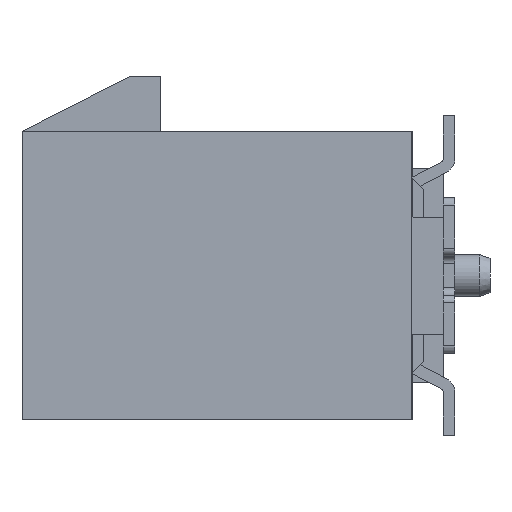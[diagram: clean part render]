
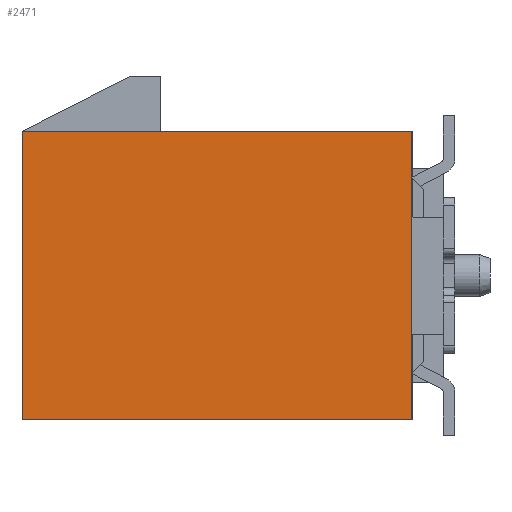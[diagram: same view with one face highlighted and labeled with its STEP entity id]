
A CAD part, left-side view. The second image highlights one B-rep face of the part: STEP entity #2471.
In plain terms, the highlighted planar face has unit normal (-1, 0, 0).
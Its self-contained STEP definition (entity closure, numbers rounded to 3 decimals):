
#333 = CARTESIAN_POINT ( 'NONE',  ( -14.65, 11.1, -3.7 ) ) ;
#413 = DIRECTION ( 'NONE',  ( 0., 0., 1. ) ) ;
#570 = VECTOR ( 'NONE', #9388, 1000. ) ;
#589 = CARTESIAN_POINT ( 'NONE',  ( -14.65, 48.272, -3.7 ) ) ;
#1003 = EDGE_CURVE ( 'NONE', #1528, #8660, #4080, .T. ) ;
#1201 = EDGE_CURVE ( 'NONE', #8660, #2805, #2456, .T. ) ;
#1528 = VERTEX_POINT ( 'NONE', #333 ) ;
#1809 = CARTESIAN_POINT ( 'NONE',  ( -14.65, 1.1, -3.7 ) ) ;
#2142 = ORIENTED_EDGE ( 'NONE', *, *, #1003, .F. ) ;
#2456 = LINE ( 'NONE', #6077, #14912 ) ;
#2471 = ADVANCED_FACE ( 'NONE', ( #8637 ), #10038, .F. ) ;
#2805 = VERTEX_POINT ( 'NONE', #9707 ) ;
#2814 = EDGE_CURVE ( 'NONE', #12391, #2805, #3820, .T. ) ;
#3820 = LINE ( 'NONE', #1809, #7785 ) ;
#4080 = LINE ( 'NONE', #7717, #15147 ) ;
#4244 = EDGE_LOOP ( 'NONE', ( #12077, #2142, #15088, #14069 ) ) ;
#5382 = DIRECTION ( 'NONE',  ( 0., 0., -1. ) ) ;
#5590 = LINE ( 'NONE', #8304, #570 ) ;
#6077 = CARTESIAN_POINT ( 'NONE',  ( -14.65, 48.272, 3.7 ) ) ;
#6305 = CARTESIAN_POINT ( 'NONE',  ( -14.65, 11.1, 3.7 ) ) ;
#6336 = DIRECTION ( 'NONE',  ( 0., 0., 1. ) ) ;
#7096 = EDGE_CURVE ( 'NONE', #1528, #12391, #5590, .T. ) ;
#7717 = CARTESIAN_POINT ( 'NONE',  ( -14.65, 11.1, -3.7 ) ) ;
#7785 = VECTOR ( 'NONE', #413, 1000. ) ;
#8304 = CARTESIAN_POINT ( 'NONE',  ( -14.65, 48.272, -3.7 ) ) ;
#8637 = FACE_OUTER_BOUND ( 'NONE', #4244, .T. ) ;
#8660 = VERTEX_POINT ( 'NONE', #6305 ) ;
#9388 = DIRECTION ( 'NONE',  ( 0., -1., 0. ) ) ;
#9707 = CARTESIAN_POINT ( 'NONE',  ( -14.65, 1.1, 3.7 ) ) ;
#9744 = AXIS2_PLACEMENT_3D ( 'NONE', #589, #12293, #5382 ) ;
#10038 = PLANE ( 'NONE',  #9744 ) ;
#12077 = ORIENTED_EDGE ( 'NONE', *, *, #1201, .F. ) ;
#12293 = DIRECTION ( 'NONE',  ( 1., 0., 0. ) ) ;
#12391 = VERTEX_POINT ( 'NONE', #13783 ) ;
#13783 = CARTESIAN_POINT ( 'NONE',  ( -14.65, 1.1, -3.7 ) ) ;
#14069 = ORIENTED_EDGE ( 'NONE', *, *, #2814, .T. ) ;
#14088 = DIRECTION ( 'NONE',  ( 0., -1., 0. ) ) ;
#14912 = VECTOR ( 'NONE', #14088, 1000. ) ;
#15088 = ORIENTED_EDGE ( 'NONE', *, *, #7096, .T. ) ;
#15147 = VECTOR ( 'NONE', #6336, 1000. ) ;
